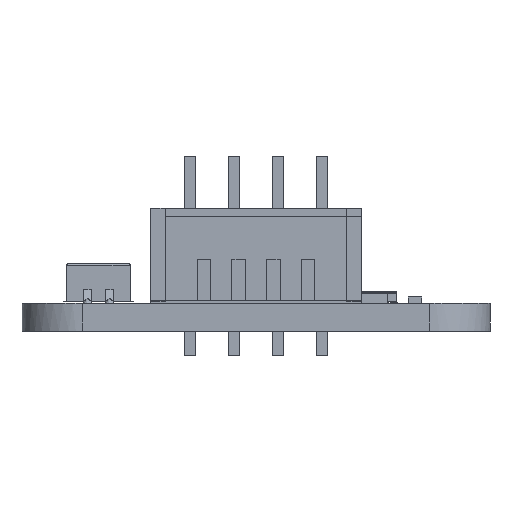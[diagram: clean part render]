
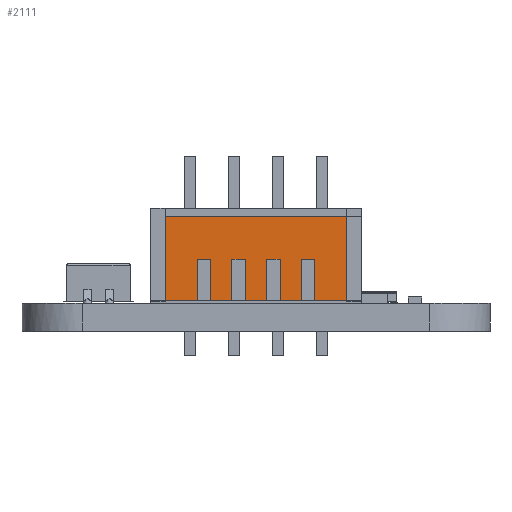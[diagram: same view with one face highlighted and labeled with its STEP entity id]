
A CAD part, left-side view. The second image highlights one B-rep face of the part: STEP entity #2111.
In plain terms, the highlighted planar face has unit normal (-1, 0, 0).
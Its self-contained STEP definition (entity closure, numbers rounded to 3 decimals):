
#2111=ADVANCED_FACE('',(#2930),#12990,.T.);
#2930=FACE_OUTER_BOUND('',#3793,.T.);
#3793=EDGE_LOOP('',(#7356,#7357,#7358,#7359));
#7356=ORIENTED_EDGE('',*,*,#9381,.F.);
#7357=ORIENTED_EDGE('',*,*,#9383,.T.);
#7358=ORIENTED_EDGE('',*,*,#9373,.F.);
#7359=ORIENTED_EDGE('',*,*,#9384,.T.);
#9373=EDGE_CURVE('',#12316,#12317,#11026,.T.);
#9381=EDGE_CURVE('',#12322,#12323,#11034,.T.);
#9383=EDGE_CURVE('',#12322,#12317,#11036,.T.);
#9384=EDGE_CURVE('',#12316,#12323,#11037,.T.);
#11026=B_SPLINE_CURVE_WITH_KNOTS('',1,(#23446,#23447),.UNSPECIFIED.,.F.,
 .F.,(2,2),(0.,4.9),.UNSPECIFIED.);
#11034=B_SPLINE_CURVE_WITH_KNOTS('',1,(#23462,#23463),.UNSPECIFIED.,.F.,
 .F.,(2,2),(0.,4.9),.UNSPECIFIED.);
#11036=B_SPLINE_CURVE_WITH_KNOTS('',1,(#23466,#23467),.UNSPECIFIED.,.F.,
 .F.,(2,2),(0.,10.465),.UNSPECIFIED.);
#11037=B_SPLINE_CURVE_WITH_KNOTS('',1,(#23468,#23469),.UNSPECIFIED.,.F.,
 .F.,(2,2),(0.,10.465),.UNSPECIFIED.);
#12316=VERTEX_POINT('',#23438);
#12317=VERTEX_POINT('',#23439);
#12322=VERTEX_POINT('',#23444);
#12323=VERTEX_POINT('',#23445);
#12990=PLANE('',#13687);
#13687=AXIS2_PLACEMENT_3D('',#23435,#14337,$);
#14337=DIRECTION('',(-1.,0.,0.));
#23435=CARTESIAN_POINT('',(1.826,7.221,5.49));
#23438=CARTESIAN_POINT('',(1.826,18.732,0.1));
#23439=CARTESIAN_POINT('',(1.826,18.732,5.));
#23444=CARTESIAN_POINT('',(1.826,8.268,5.));
#23445=CARTESIAN_POINT('',(1.826,8.268,0.1));
#23446=CARTESIAN_POINT('',(1.826,18.732,0.1));
#23447=CARTESIAN_POINT('',(1.826,18.732,5.));
#23462=CARTESIAN_POINT('',(1.826,8.268,5.));
#23463=CARTESIAN_POINT('',(1.826,8.268,0.1));
#23466=CARTESIAN_POINT('',(1.826,8.268,5.));
#23467=CARTESIAN_POINT('',(1.826,18.732,5.));
#23468=CARTESIAN_POINT('',(1.826,18.732,0.1));
#23469=CARTESIAN_POINT('',(1.826,8.268,0.1));
